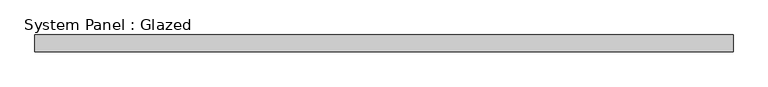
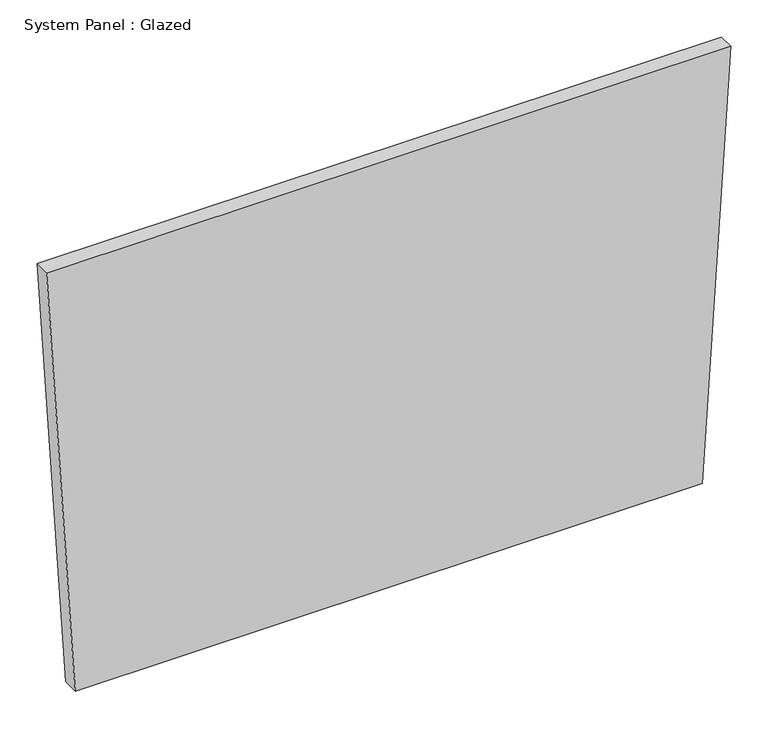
"""IFC4 building model written with IfcOpenShell, lengths in millimetres: plate geometry, System Panel : Glazed."""

from ifc_helpers import new_model, si_unit, frame, origin, place, context, project, spatial, polyline, outline, extrude, source, transform, mapped, element, save


def system_panel_glazed_819b4604(model_context):
    return source(origin(), model_context, "Body", "SweptSolid", [
        extrude(outline(polyline([(0.0008503, -488.3169315), (0.0, 488.3169364), (704.4139154, 532.790288), (704.4148432, -532.790288), (0.0008503, -488.3169315)])), frame((0.0, 19.05, 0.0), z_axis=(0.0, 1.0, 0.0), x_axis=(0.0, 0.0, 1.0)), (0.0, 0.0, 1.0), 25.4),
    ])


if __name__ == "__main__":
    model = new_model("IFC4")
    model_context = context("Model", 3, world=origin())
    ifc_project = project(units=[si_unit("LENGTHUNIT", "METRE", prefix="MILLI")], contexts=[model_context])
    site = spatial("IfcSite", under=ifc_project)
    building = spatial("IfcBuilding", under=site)
    placement = place(None, origin())
    system_panel_glazed_shape = system_panel_glazed_819b4604(model_context)
    element("IfcPlate", 1, ObjectType="System Panel : Glazed", at=placement, inside=building, context=model_context, shape_type="MappedRepresentation", body=[
        mapped(system_panel_glazed_shape, transform((0.0, 0.0, 0.0), x_axis=(1.0, 0.0, 0.0), y_axis=(0.0, 1.0, 0.0), z_axis=(0.0, 0.0, 1.0))),
    ])
    save(model, "model.ifc")
